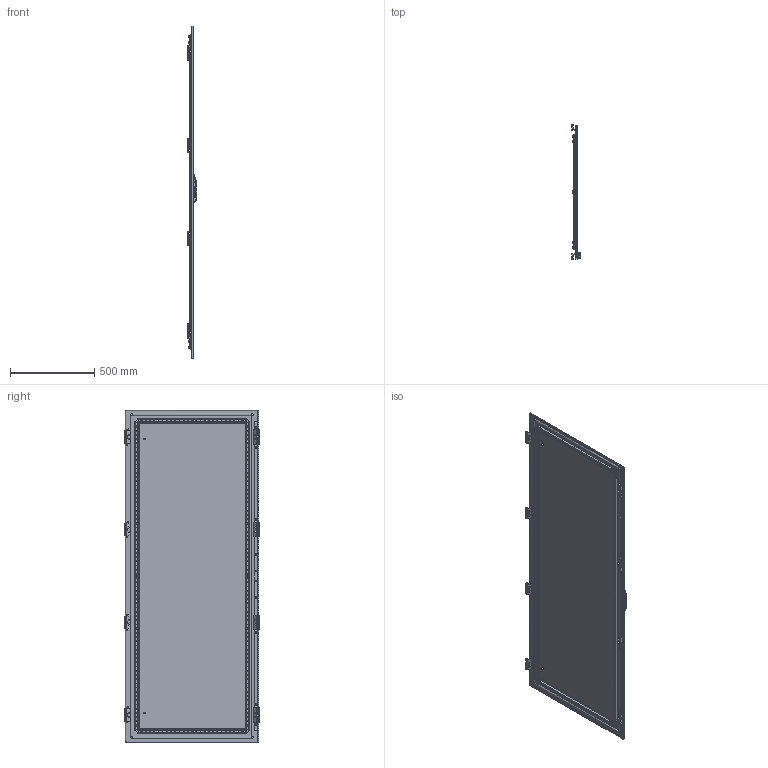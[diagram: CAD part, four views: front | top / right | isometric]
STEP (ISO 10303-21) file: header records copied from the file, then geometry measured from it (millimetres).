
FILE_DESCRIPTION(('STEP AP203'), '1');
FILE_NAME('3410 ﾄ粢 ﾑﾁ', '', ('UNSPECIFIED'), ('UNSPECIFIED'), 'C3D Converter', 'C3D Toolkit', '');
FILE_SCHEMA(('CONFIG_CONTROL_DESIGN'));
Length unit declared in the file: millimetre
Products named in the file (29): 3410.200.80 СБ; 3420; 3421; 3422.01; 3412; 3411; 2952; 3009.05; 3009.05.01; 3622.01; 3009.08; 3009.08.01
Assembly tree (115 placements, depth 4):
  3410.200.80 СБ
    3420
      3421
      3422.01  x4
      (unnamed)  x14
      (unnamed)  x8
      (unnamed)  x2
    3412  x2
    3411  x2
    (unnamed)  x4
    (unnamed)  x14
    (unnamed)  x22
    (unnamed)  x8
    2952
      (unnamed)
        (unnamed)
        (unnamed)
        (unnamed)
        (unnamed)
        (unnamed)
    (unnamed)  x2
    3009.05  x4
      3009.05.01
      (unnamed)
      (unnamed)
    3622.01  x4
    (unnamed)  x4
    3009.08  x4
      3009.08.01
      (unnamed)
      (unnamed)
Bounding box: 55 x 797.03 x 1971 mm (x, y, z)
Volume: 3685073.2 mm3; surface area: 4468801.5 mm2
Topology: 130 solids, 130 shells, 4345 faces, 10957 edges, 7046 vertices
Faces by surface type: plane 2555, cylinder 1065, cone 482, bspline 151, torus 81, sphere 11
Full cylindrical faces by diameter (mm): 0.5 x22, 4.134 x8, 4.3 x2, 4.5 x176, 4.917 x22, 5 x24, 5.2 x1, 5.8 x8, 6 x36, 6.1 x4, 6.6 x22, 6.75 x22, 7 x8, 7.3 x22, 7.5 x22, 8 x20, 8.3 x16, 8.5 x1, 9.2 x18, 10 x23, 10.5 x4, 11.5 x4, 12 x26, 13 x1, 15 x1, 20.7 x1, 21 x1
Entity records: 74935 total; most frequent: CARTESIAN_POINT 31254, ORIENTED_EDGE 6952, DIRECTION 6562, EDGE_CURVE 3476, AXIS2_PLACEMENT_3D 2359, VERTEX_POINT 2307, EDGE_LOOP 1965, LINE 1844
